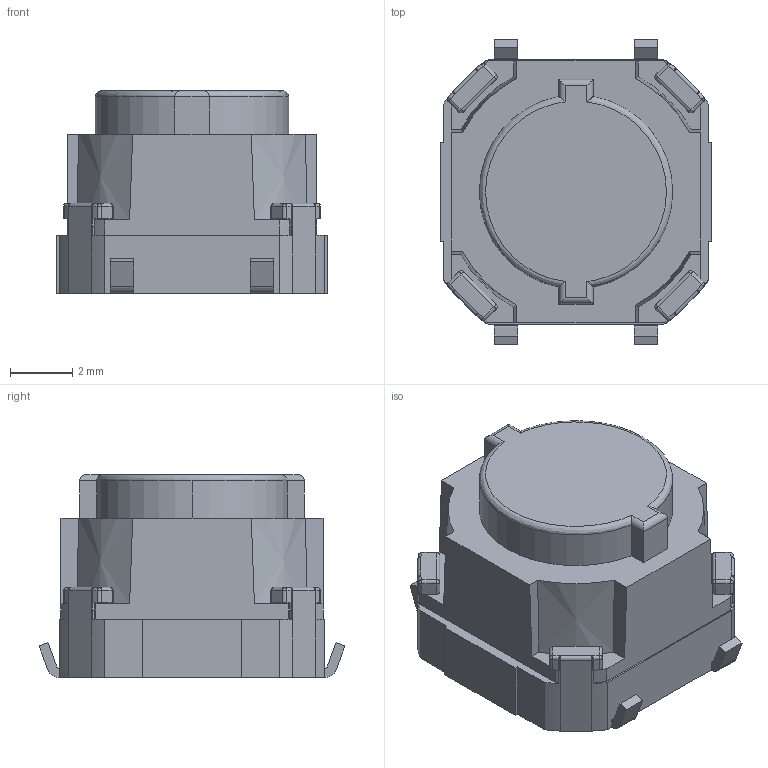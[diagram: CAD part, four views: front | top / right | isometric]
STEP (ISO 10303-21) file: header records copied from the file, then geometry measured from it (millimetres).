
FILE_DESCRIPTION (( 'STEP AP203' ), '1' );
FILE_NAME ('EVQQ1D06M.STEP', '2013-06-20T06:26:53', ( '' ), ( '' ), 'SwSTEP 2.0', 'SolidWorks 2011', '' );
FILE_SCHEMA (( 'CONFIG_CONTROL_DESIGN' ));
Length unit declared in the file: millimetre
Products named in the file (1): EVQQ1D06M
Bounding box: 8.7 x 9.8 x 6.5 mm (x, y, z)
Volume: 358.3 mm3; surface area: 355.1 mm2
Topology: 1 solids, 1 shells, 301 faces, 787 edges, 490 vertices
Faces by surface type: plane 178, cylinder 85, bspline 34, cone 4
Entity records: 9764 total; most frequent: CARTESIAN_POINT 2503, ORIENTED_EDGE 1558, DIRECTION 1423, EDGE_CURVE 779, VECTOR 555, LINE 555, VERTEX_POINT 490, AXIS2_PLACEMENT_3D 434
